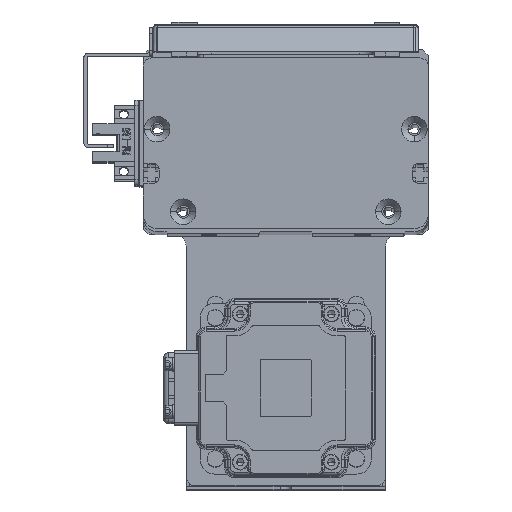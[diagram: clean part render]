
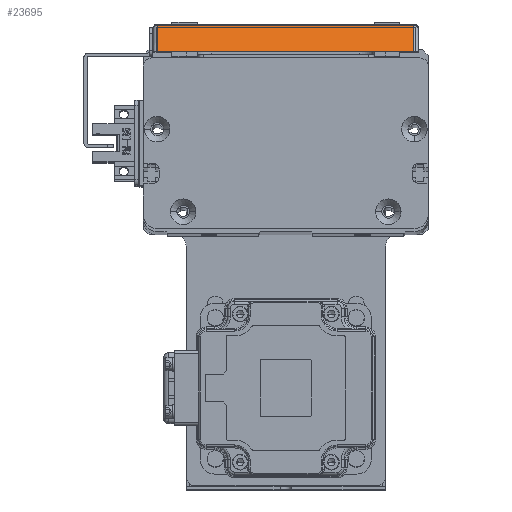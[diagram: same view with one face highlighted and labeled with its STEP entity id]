
A CAD part, top view. The second image highlights one B-rep face of the part: STEP entity #23695.
In plain terms, the highlighted planar face has unit normal (0, 0.707, 0.707) as drawn and (-0.707, 0, -0.707) by its records, which use the part's own axes.
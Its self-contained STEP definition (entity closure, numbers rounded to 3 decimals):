
#1389 = VERTEX_POINT ( 'NONE', #20043 ) ;
#2424 = VERTEX_POINT ( 'NONE', #49169 ) ;
#6570 = VERTEX_POINT ( 'NONE', #62906 ) ;
#8687 = AXIS2_PLACEMENT_3D ( 'NONE', #13803, #51538, #67364 ) ;
#8775 = DIRECTION ( 'NONE',  ( 0., 1., 0. ) ) ;
#9685 = ORIENTED_EDGE ( 'NONE', *, *, #21373, .T. ) ;
#10611 = DIRECTION ( 'NONE',  ( -0.707, 0., 0.707 ) ) ;
#12892 = VECTOR ( 'NONE', #8775, 1000. ) ;
#13401 = ORIENTED_EDGE ( 'NONE', *, *, #50226, .T. ) ;
#13803 = CARTESIAN_POINT ( 'NONE',  ( -68., 93.4, 5.6 ) ) ;
#19797 = CARTESIAN_POINT ( 'NONE',  ( -68., 1.7, 5.6 ) ) ;
#20043 = CARTESIAN_POINT ( 'NONE',  ( -66.5, 1.7, 4.1 ) ) ;
#21373 = EDGE_CURVE ( 'NONE', #1389, #50184, #39092, .T. ) ;
#23695 = ADVANCED_FACE ( 'NONE', ( #45946 ), #61902, .T. ) ;
#24759 = CARTESIAN_POINT ( 'NONE',  ( -66.5, 91.7, 4.1 ) ) ;
#26188 = DIRECTION ( 'NONE',  ( 0.707, 0., -0.707 ) ) ;
#26566 = ORIENTED_EDGE ( 'NONE', *, *, #30799, .T. ) ;
#28584 = LINE ( 'NONE', #48055, #67453 ) ;
#30799 = EDGE_CURVE ( 'NONE', #6570, #2424, #28584, .T. ) ;
#32845 = EDGE_CURVE ( 'NONE', #50184, #6570, #62952, .T. ) ;
#35972 = LINE ( 'NONE', #19797, #53667 ) ;
#37916 = DIRECTION ( 'NONE',  ( 0., -1., 0. ) ) ;
#38195 = EDGE_LOOP ( 'NONE', ( #13401, #9685, #52962, #26566 ) ) ;
#39092 = LINE ( 'NONE', #46003, #12892 ) ;
#45946 = FACE_OUTER_BOUND ( 'NONE', #38195, .T. ) ;
#46003 = CARTESIAN_POINT ( 'NONE',  ( -66.5, 93.4, 4.1 ) ) ;
#48055 = CARTESIAN_POINT ( 'NONE',  ( -57.298, 93.4, -5.102 ) ) ;
#49169 = CARTESIAN_POINT ( 'NONE',  ( -57.298, 1.7, -5.102 ) ) ;
#49500 = VECTOR ( 'NONE', #26188, 1000. ) ;
#50184 = VERTEX_POINT ( 'NONE', #24759 ) ;
#50226 = EDGE_CURVE ( 'NONE', #2424, #1389, #35972, .T. ) ;
#51538 = DIRECTION ( 'NONE',  ( -0.707, 0., -0.707 ) ) ;
#52962 = ORIENTED_EDGE ( 'NONE', *, *, #32845, .T. ) ;
#53667 = VECTOR ( 'NONE', #10611, 1000. ) ;
#58462 = CARTESIAN_POINT ( 'NONE',  ( -68., 91.7, 5.6 ) ) ;
#61902 = PLANE ( 'NONE',  #8687 ) ;
#62906 = CARTESIAN_POINT ( 'NONE',  ( -57.298, 91.7, -5.102 ) ) ;
#62952 = LINE ( 'NONE', #58462, #49500 ) ;
#67364 = DIRECTION ( 'NONE',  ( -0.707, 0., 0.707 ) ) ;
#67453 = VECTOR ( 'NONE', #37916, 1000. ) ;
